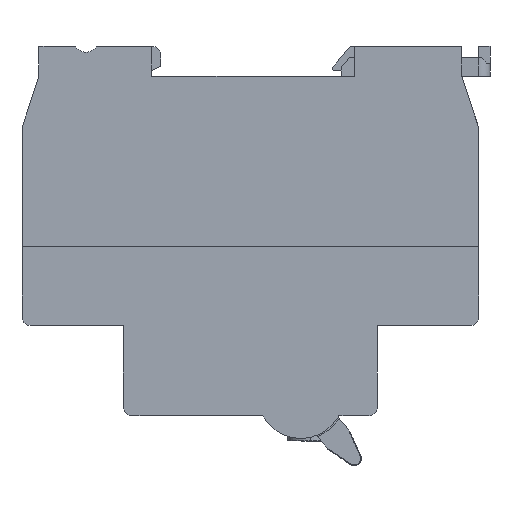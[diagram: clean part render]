
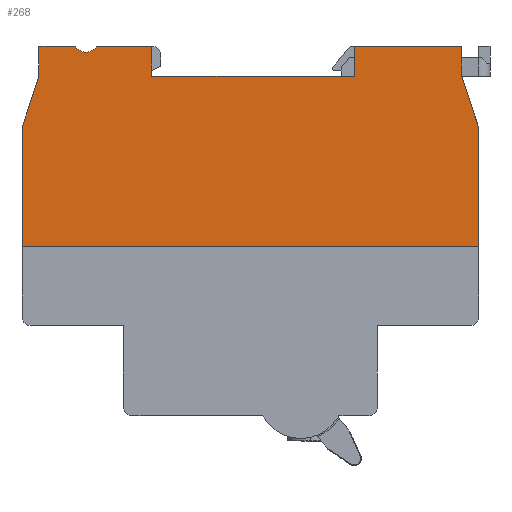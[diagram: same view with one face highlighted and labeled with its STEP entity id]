
A CAD part, left-side view. The second image highlights one B-rep face of the part: STEP entity #268.
In plain terms, the highlighted planar face has unit normal (-1, 0, 0).
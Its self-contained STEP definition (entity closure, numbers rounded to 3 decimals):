
#250 = EDGE_CURVE ( 'NONE', #251, #336, #28200, .T. ) ;
#251 = VERTEX_POINT ( 'NONE', #28196 ) ;
#252 = ORIENTED_EDGE ( 'NONE', *, *, #253, .F. ) ;
#253 = EDGE_CURVE ( 'NONE', #254, #251, #28195, .T. ) ;
#254 = VERTEX_POINT ( 'NONE', #28191 ) ;
#255 = ORIENTED_EDGE ( 'NONE', *, *, #256, .F. ) ;
#256 = EDGE_CURVE ( 'NONE', #257, #254, #28190, .T. ) ;
#257 = VERTEX_POINT ( 'NONE', #28186 ) ;
#258 = ORIENTED_EDGE ( 'NONE', *, *, #319, .F. ) ;
#259 = VERTEX_POINT ( 'NONE', #28185 ) ;
#268 = ADVANCED_FACE ( 'NONE', ( #28170 ), #28233, .T. ) ;
#269 = EDGE_LOOP ( 'NONE', ( #270, #272, #273, #334, #337, #252, #255, #258, #320, #323, #326, #330, #304, #306 ) ) ;
#270 = ORIENTED_EDGE ( 'NONE', *, *, #271, .F. ) ;
#271 = EDGE_CURVE ( 'NONE', #637, #27020, #28228, .T. ) ;
#272 = ORIENTED_EDGE ( 'NONE', *, *, #1075, .F. ) ;
#273 = ORIENTED_EDGE ( 'NONE', *, *, #333, .F. ) ;
#274 = VERTEX_POINT ( 'NONE', #28224 ) ;
#304 = ORIENTED_EDGE ( 'NONE', *, *, #305, .F. ) ;
#305 = EDGE_CURVE ( 'NONE', #27023, #332, #28291, .T. ) ;
#306 = ORIENTED_EDGE ( 'NONE', *, *, #27022, .F. ) ;
#319 = EDGE_CURVE ( 'NONE', #259, #257, #28265, .T. ) ;
#320 = ORIENTED_EDGE ( 'NONE', *, *, #321, .F. ) ;
#321 = EDGE_CURVE ( 'NONE', #322, #259, #28325, .T. ) ;
#322 = VERTEX_POINT ( 'NONE', #28321 ) ;
#323 = ORIENTED_EDGE ( 'NONE', *, *, #324, .F. ) ;
#324 = EDGE_CURVE ( 'NONE', #325, #322, #28320, .T. ) ;
#325 = VERTEX_POINT ( 'NONE', #28315 ) ;
#326 = ORIENTED_EDGE ( 'NONE', *, *, #328, .F. ) ;
#328 = EDGE_CURVE ( 'NONE', #329, #325, #28310, .T. ) ;
#329 = VERTEX_POINT ( 'NONE', #28306 ) ;
#330 = ORIENTED_EDGE ( 'NONE', *, *, #331, .F. ) ;
#331 = EDGE_CURVE ( 'NONE', #332, #329, #28305, .T. ) ;
#332 = VERTEX_POINT ( 'NONE', #28301 ) ;
#333 = EDGE_CURVE ( 'NONE', #274, #1085, #28300, .T. ) ;
#334 = ORIENTED_EDGE ( 'NONE', *, *, #335, .F. ) ;
#335 = EDGE_CURVE ( 'NONE', #336, #274, #28361, .T. ) ;
#336 = VERTEX_POINT ( 'NONE', #28357 ) ;
#337 = ORIENTED_EDGE ( 'NONE', *, *, #250, .F. ) ;
#637 = VERTEX_POINT ( 'NONE', #28455 ) ;
#1075 = EDGE_CURVE ( 'NONE', #1085, #637, #28516, .T. ) ;
#1085 = VERTEX_POINT ( 'NONE', #28512 ) ;
#12315 = VECTOR ( 'NONE', #12444, 1000. ) ;
#12317 = CARTESIAN_POINT ( 'NONE',  ( 0., 63., 0. ) ) ;
#12318 = LINE ( 'NONE', #12317, #12315 ) ;
#12323 = CARTESIAN_POINT ( 'NONE',  ( 0., 63., 14. ) ) ;
#12442 = CARTESIAN_POINT ( 'NONE',  ( 0., 63., 35. ) ) ;
#12444 = DIRECTION ( 'NONE',  ( 0., 0., 1. ) ) ;
#27020 = VERTEX_POINT ( 'NONE', #12323 ) ;
#27022 = EDGE_CURVE ( 'NONE', #27020, #27023, #12318, .T. ) ;
#27023 = VERTEX_POINT ( 'NONE', #12442 ) ;
#28170 = FACE_OUTER_BOUND ( 'NONE', #269, .T. ) ;
#28185 = CARTESIAN_POINT ( 'NONE',  ( 0., 40., 49.5 ) ) ;
#28186 = CARTESIAN_POINT ( 'NONE',  ( 0., 40., 44.2 ) ) ;
#28187 = DIRECTION ( 'NONE',  ( 0., -1., 0. ) ) ;
#28188 = VECTOR ( 'NONE', #28187, 1000. ) ;
#28189 = CARTESIAN_POINT ( 'NONE',  ( 0., 40., 44.2 ) ) ;
#28190 = LINE ( 'NONE', #28189, #28188 ) ;
#28191 = CARTESIAN_POINT ( 'NONE',  ( 0., 4., 44.2 ) ) ;
#28192 = DIRECTION ( 'NONE',  ( 0., 0., 1. ) ) ;
#28193 = VECTOR ( 'NONE', #28192, 1000. ) ;
#28194 = CARTESIAN_POINT ( 'NONE',  ( 0., 4., 49.5 ) ) ;
#28195 = LINE ( 'NONE', #28194, #28193 ) ;
#28196 = CARTESIAN_POINT ( 'NONE',  ( 0., 4., 49.5 ) ) ;
#28197 = DIRECTION ( 'NONE',  ( 0., -1., 0. ) ) ;
#28198 = VECTOR ( 'NONE', #28197, 1000. ) ;
#28199 = CARTESIAN_POINT ( 'NONE',  ( 0., -15., 49.5 ) ) ;
#28200 = LINE ( 'NONE', #28199, #28198 ) ;
#28224 = CARTESIAN_POINT ( 'NONE',  ( 0., -15., 44.2 ) ) ;
#28225 = DIRECTION ( 'NONE',  ( 0., 1., 0. ) ) ;
#28226 = VECTOR ( 'NONE', #28225, 1000. ) ;
#28227 = CARTESIAN_POINT ( 'NONE',  ( 0., 63., 14. ) ) ;
#28228 = LINE ( 'NONE', #28227, #28226 ) ;
#28229 = DIRECTION ( 'NONE',  ( 0., 0., 1. ) ) ;
#28230 = DIRECTION ( 'NONE',  ( -1., 0., 0. ) ) ;
#28231 = CARTESIAN_POINT ( 'NONE',  ( 0., 51.65, 50.711 ) ) ;
#28232 = AXIS2_PLACEMENT_3D ( 'NONE', #28231, #28230, #28229 ) ;
#28233 = PLANE ( 'NONE',  #28232 ) ;
#28264 = CARTESIAN_POINT ( 'NONE',  ( 0., 40., 49.5 ) ) ;
#28265 = LINE ( 'NONE', #28264, #28327 ) ;
#28288 = DIRECTION ( 'NONE',  ( 0., -0.31, 0.951 ) ) ;
#28289 = VECTOR ( 'NONE', #28288, 1000. ) ;
#28290 = CARTESIAN_POINT ( 'NONE',  ( 0., 63., 35. ) ) ;
#28291 = LINE ( 'NONE', #28290, #28289 ) ;
#28297 = DIRECTION ( 'NONE',  ( 0., -0.31, -0.951 ) ) ;
#28298 = VECTOR ( 'NONE', #28297, 1000. ) ;
#28299 = CARTESIAN_POINT ( 'NONE',  ( 0., -18., 35. ) ) ;
#28300 = LINE ( 'NONE', #28299, #28298 ) ;
#28301 = CARTESIAN_POINT ( 'NONE',  ( 0., 60., 44.2 ) ) ;
#28302 = DIRECTION ( 'NONE',  ( 0., 0., 1. ) ) ;
#28303 = VECTOR ( 'NONE', #28302, 1000. ) ;
#28304 = CARTESIAN_POINT ( 'NONE',  ( 0., 60., 44.2 ) ) ;
#28305 = LINE ( 'NONE', #28304, #28303 ) ;
#28306 = CARTESIAN_POINT ( 'NONE',  ( 0., 60., 49.5 ) ) ;
#28307 = DIRECTION ( 'NONE',  ( 0., -1., 0. ) ) ;
#28308 = VECTOR ( 'NONE', #28307, 1000. ) ;
#28309 = CARTESIAN_POINT ( 'NONE',  ( 0., 53.5, 49.5 ) ) ;
#28310 = LINE ( 'NONE', #28309, #28308 ) ;
#28315 = CARTESIAN_POINT ( 'NONE',  ( 0., 53.5, 49.5 ) ) ;
#28316 = DIRECTION ( 'NONE',  ( 0., 0., 1. ) ) ;
#28317 = DIRECTION ( 'NONE',  ( -1., 0., 0. ) ) ;
#28318 = CARTESIAN_POINT ( 'NONE',  ( 0., 51.65, 50.711 ) ) ;
#28319 = AXIS2_PLACEMENT_3D ( 'NONE', #28318, #28317, #28316 ) ;
#28320 = CIRCLE ( 'NONE', #28319, 2.211 ) ;
#28321 = CARTESIAN_POINT ( 'NONE',  ( 0., 49.8, 49.5 ) ) ;
#28322 = DIRECTION ( 'NONE',  ( 0., -1., 0. ) ) ;
#28323 = VECTOR ( 'NONE', #28322, 1000. ) ;
#28324 = CARTESIAN_POINT ( 'NONE',  ( 0., 40., 49.5 ) ) ;
#28325 = LINE ( 'NONE', #28324, #28323 ) ;
#28326 = DIRECTION ( 'NONE',  ( 0., 0., -1. ) ) ;
#28327 = VECTOR ( 'NONE', #28326, 1000. ) ;
#28357 = CARTESIAN_POINT ( 'NONE',  ( 0., -15., 49.5 ) ) ;
#28358 = DIRECTION ( 'NONE',  ( 0., 0., -1. ) ) ;
#28359 = VECTOR ( 'NONE', #28358, 1000. ) ;
#28360 = CARTESIAN_POINT ( 'NONE',  ( 0., -15., 44.2 ) ) ;
#28361 = LINE ( 'NONE', #28360, #28359 ) ;
#28455 = CARTESIAN_POINT ( 'NONE',  ( 0., -18., 14. ) ) ;
#28512 = CARTESIAN_POINT ( 'NONE',  ( 0., -18., 35. ) ) ;
#28513 = DIRECTION ( 'NONE',  ( 0., 0., -1. ) ) ;
#28514 = VECTOR ( 'NONE', #28513, 1000. ) ;
#28515 = CARTESIAN_POINT ( 'NONE',  ( 0., -18., 0. ) ) ;
#28516 = LINE ( 'NONE', #28515, #28514 ) ;
